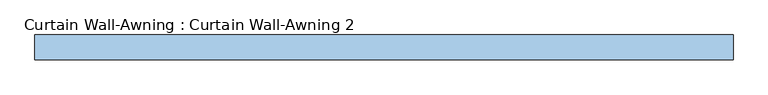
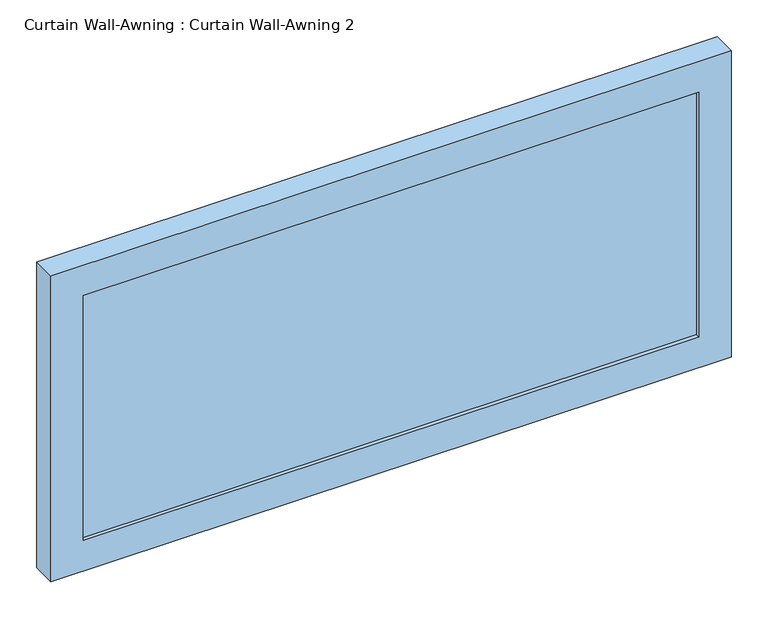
"""IFC4 building model written with IfcOpenShell, lengths in millimetres: window geometry, Curtain Wall-Awning : Curtain Wall-Awning 2."""

from ifc_helpers import new_model, si_unit, frame, origin, place, context, project, spatial, polyline, outline, extrude, source, transform, mapped, element, save


def curtain_wall_awning_curtain_wall_awning_2_6cab0b61(model_context):
    return source(origin(), model_context, "Body", "SweptSolid", [
        extrude(outline(polyline([(482.708118, 19.05), (482.708118, 6.35), (-482.708118, 6.35), (-482.708118, 19.05), (482.708118, 19.05)])), frame((0.0, 0.0, 50.8), z_axis=(0.0, 0.0, 1.0), x_axis=(1.0, 0.0, 0.0)), (0.0, 0.0, 1.0), 406.2774401),
        extrude(outline(polyline([(507.8774401, -533.508118), (0.0, -533.508118), (0.0, 533.508118), (507.8774401, 533.508118), (507.8774401, -533.508118)]), holes=[polyline([(457.0774401, -482.708118), (457.0774401, 482.708118), (50.8, 482.708118), (50.8, -482.708118), (457.0774401, -482.708118)])]), frame((0.0, 0.0, 0.0), z_axis=(0.0, 1.0, 0.0), x_axis=(0.0, 0.0, 1.0)), (0.0, 0.0, 1.0), 38.1),
    ])


if __name__ == "__main__":
    model = new_model("IFC4")
    model_context = context("Model", 3, world=origin())
    ifc_project = project(units=[si_unit("LENGTHUNIT", "METRE", prefix="MILLI")], contexts=[model_context])
    site = spatial("IfcSite", under=ifc_project)
    building = spatial("IfcBuilding", under=site)
    placement = place(None, origin())
    curtain_wall_awning_curtain_wall_awning_2_shape = curtain_wall_awning_curtain_wall_awning_2_6cab0b61(model_context)
    element("IfcWindow", 1, ObjectType="Curtain Wall-Awning : Curtain Wall-Awning 2", at=placement, inside=building, context=model_context, shape_type="MappedRepresentation", body=[
        mapped(curtain_wall_awning_curtain_wall_awning_2_shape, transform((0.0, 0.0, 0.0), x_axis=(1.0, 0.0, 0.0), y_axis=(0.0, 1.0, 0.0), z_axis=(0.0, 0.0, 1.0))),
    ])
    save(model, "model.ifc")
